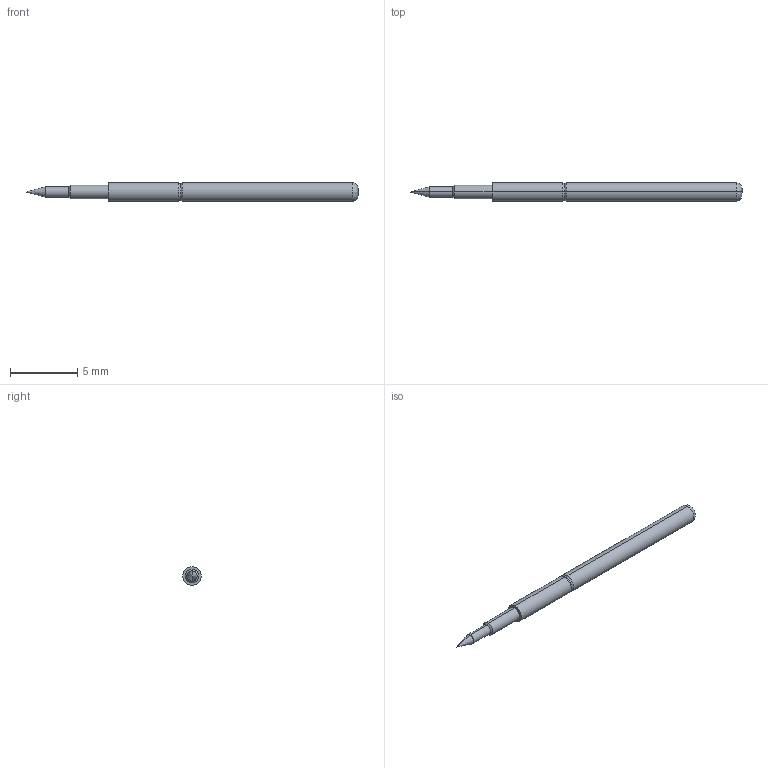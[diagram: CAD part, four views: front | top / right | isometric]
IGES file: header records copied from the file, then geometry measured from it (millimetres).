
Start section: SolidWorks IGES file using analytic representation for surfaces
Global section: file name: Z:\probe solid model mockups\Solidworks models\IGES Files\EPA-2\EPA-2B30.IGS; native system: SolidWorks 2006 by SolidWorks Corporation; preprocessor: SolidWorks 2006 by SolidWorks Corporation; author: tsakatani; date: 071220.161258; units: inch
Bounding box: 24.64 x 1.37 x 1.37 mm (x, y, z)
Surface area: 96.7 mm2 (no closed solid volume)
Topology: 0 solids, 0 shells, 20 faces, 120 edges, 118 vertices
Faces by surface type: revolution 12, bspline 8
